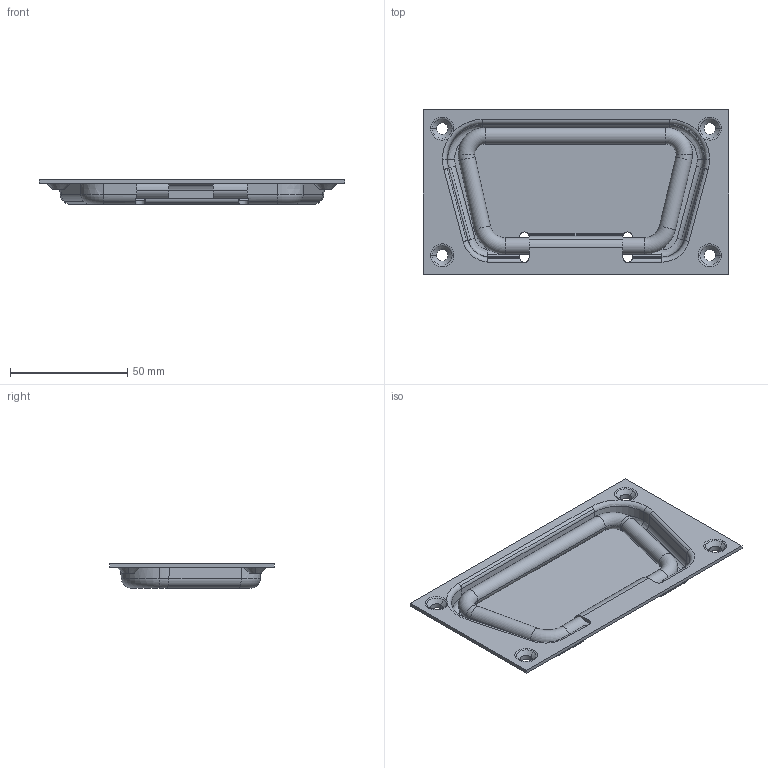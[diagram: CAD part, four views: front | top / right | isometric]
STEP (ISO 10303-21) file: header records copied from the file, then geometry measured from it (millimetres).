
FILE_DESCRIPTION((''),'2;1');
FILE_NAME('2134.04.stp','2020-11-05T12:50:59',(''),(''),'Mechanical Desktop 2006','Mechanical Desktop 2006',', , ');
FILE_SCHEMA(('CONFIG_CONTROL_DESIGN'));
Length unit declared in the file: millimetre
Products named in the file (3): 2134.04; TEIL1; TEIL2
Assembly tree (2 placements, depth 2):
  2134.04
    TEIL1
    TEIL2
Bounding box: 130 x 70 x 10.5 mm (x, y, z)
Volume: 25366.3 mm3; surface area: 27996.7 mm2
Topology: 2 solids, 2 shells, 156 faces, 400 edges, 242 vertices
Faces by surface type: cylinder 60, torus 32, plane 30, cone 28, bspline 6
Entity records: 5194 total; most frequent: CARTESIAN_POINT 1171, DIRECTION 902, ORIENTED_EDGE 800, EDGE_CURVE 400, AXIS2_PLACEMENT_3D 375, VERTEX_POINT 242, CIRCLE 214, EDGE_LOOP 162
